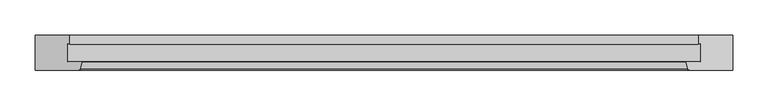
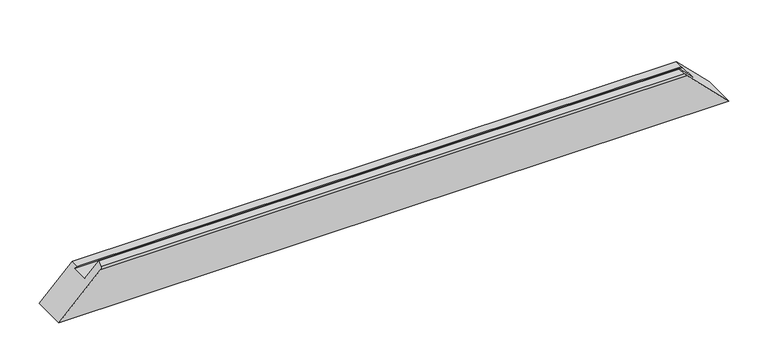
"""IFC4 building model written with IfcOpenShell, lengths in millimetres: proxy geometry, Weiku - Montante - Caixilho 02.2.01.005 : Weiku - Montante - Caixilho 02.2.01.005."""

from ifc_helpers import new_model, si_unit, frame, origin, place, context, project, spatial, ellipse_curve, source, transform, mapped, element, save
from ifc_brep_helpers import plane_surface, cylinder_surface, advanced_brep


def generic_models_3bb0d865(model_context):
    return source(origin(), model_context, "Body", "AdvancedBrep", [
        advanced_brep(
        [(-449.0, 12.5, 46.0), (-428.8909676, 12.5, 66.1090324), (428.8909676, 12.5, 66.1090324), (449.0, 12.5, 46.0), (-449.0, 37.8314286, 46.0), (449.0, 37.8314286, 46.0), (-446.0, 37.027581, 49.0), (446.0, 37.027581, 49.0), (-446.0, 50.0, 49.0), (446.0, 50.0, 49.0), (495.0, 50.0, 0.0), (-495.0, 50.0, 0.0), (495.0, 0.0, 0.0), (-495.0, 0.0, 0.0), (433.4997332, 0.0, 61.5002668), (-433.4997332, 0.0, 61.5002668), (-428.118227, 11.4929448, 66.881773), (-430.6019557, 2.2235429, 64.3980443), (430.6019557, 2.2235429, 64.3980443), (428.118227, 11.4929448, 66.881773)],
        [
            (0, 1),
            (1, 2),
            (2, 3),
            (3, 0),
            (4, 0),
            (3, 5),
            (5, 4),
            (6, 4),
            (5, 7),
            (7, 6),
            (8, 6),
            (7, 9),
            (9, 8),
            (10, 11),
            (11, 8),
            (9, 10),
            (10, 12),
            (12, 13),
            (13, 11),
            (12, 14),
            (14, 15),
            (15, 13),
            (16, 17),
            (17, 18),
            (18, 19),
            (19, 16),
            (15, 17, ellipse_curve(frame((-433.4997332, 3.0, 61.5002668), z_axis=(-0.7071067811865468, 0.0, 0.7071067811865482), x_axis=(-0.7071067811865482, 0.0, -0.7071067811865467)), 4.2426407, 3.0)),
            (16, 1, ellipse_curve(frame((-428.8909676, 11.7, 66.1090324), z_axis=(-0.7071067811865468, 0.0, 0.7071067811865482), x_axis=(-0.7071067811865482, 0.0, -0.7071067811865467)), 1.1313708, 0.8)),
            (2, 19, ellipse_curve(frame((428.8909676, 11.7, 66.1090324), z_axis=(0.707106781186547, 0.0, 0.7071067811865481), x_axis=(-0.7071067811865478, 0.0, 0.707106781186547)), 1.1313708, 0.8)),
            (18, 14, ellipse_curve(frame((433.4997332, 3.0, 61.5002668), z_axis=(0.707106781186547, 0.0, 0.7071067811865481), x_axis=(-0.7071067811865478, 0.0, 0.707106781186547)), 4.2426407, 3.0)),
        ],
        [
            plane_surface(frame((-495.0, 12.5, 66.1090324), z_axis=(0.0, 1.0, 0.0), x_axis=(1.0, 0.0, 0.0))),
            plane_surface(frame((-495.0, 12.5, 46.0), z_axis=(0.0, 0.0, 1.0), x_axis=(1.0, 0.0, 0.0))),
            plane_surface(frame((-495.0, 37.8314286, 46.0), z_axis=(0.0, -0.9659258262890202, -0.2588190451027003), x_axis=(1.0, 0.0, 0.0))),
            plane_surface(frame((-495.0, 37.027581, 49.0), z_axis=(0.0, 0.0, 1.0), x_axis=(1.0, 0.0, 0.0))),
            plane_surface(frame((-495.0, 50.0, 49.0), z_axis=(0.0, 1.0, 0.0), x_axis=(1.0, 0.0, 0.0))),
            plane_surface(frame((-495.0, 50.0, 0.0), z_axis=(0.0, 0.0, -1.0), x_axis=(1.0, 0.0, 0.0))),
            plane_surface(frame((-495.0, 0.0, 0.0), z_axis=(0.0, -1.0, 0.0), x_axis=(1.0, 0.0, 0.0))),
            plane_surface(frame((-495.0, 2.2235429, 64.3980443), z_axis=(0.0, -0.2588190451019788, 0.9659258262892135), x_axis=(1.0, 0.0, 0.0))),
            plane_surface(frame((-565.0, -15.0, -70.0), z_axis=(-0.7071067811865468, 0.0, 0.7071067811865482), x_axis=(0.0, 1.0, 0.0))),
            plane_surface(frame((425.0, -15.0, 70.0), z_axis=(0.707106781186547, 0.0, 0.7071067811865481), x_axis=(0.0, 1.0, 0.0))),
            cylinder_surface(frame((-495.0, 11.7, 66.1090324), z_axis=(-1.0, 0.0, 0.0), x_axis=(0.0, 1.0, 0.0)), 0.8),
            cylinder_surface(frame((-495.0, 3.0, 61.5002668), z_axis=(-1.0, 0.0, 0.0), x_axis=(0.0, 1.0, 0.0)), 3.0),
        ],
        [
            (0, [[1, 2, 3, 4]]),
            (1, [[5, -4, 6, 7]]),
            (2, [[8, -7, 9, 10]]),
            (3, [[11, -10, 12, 13]]),
            (4, [[14, 15, -13, 16]]),
            (5, [[-14, 17, 18, 19]]),
            (6, [[-18, 20, 21, 22]]),
            (7, [[23, 24, 25, 26]]),
            (8, [[-1, -5, -8, -11, -15, -19, -22, 27, -23, 28]]),
            (9, [[-3, 29, -25, 30, -20, -17, -16, -12, -9, -6]]),
            (10, [[-28, -26, -29, -2]]),
            (11, [[-27, -21, -30, -24]]),
        ],
    ),
    ])


if __name__ == "__main__":
    model = new_model("IFC4")
    model_context = context("Model", 3, world=origin())
    ifc_project = project(units=[si_unit("LENGTHUNIT", "METRE", prefix="MILLI")], contexts=[model_context])
    site = spatial("IfcSite", under=ifc_project)
    building = spatial("IfcBuilding", under=site)
    placement = place(None, origin())
    generic_models_shape = generic_models_3bb0d865(model_context)
    element("IfcBuildingElementProxy", 1, Name="Weiku - Montante - Caixilho 02.2.01.005 : Weiku - Montante - Caixilho 02.2.01.005", ObjectType="Weiku - Montante - Caixilho 02.2.01.005 : Weiku - Montante - Caixilho 02.2.01.005", at=placement, inside=building, context=model_context, shape_type="MappedRepresentation", body=[
        mapped(generic_models_shape, transform((0.0, 0.0, 0.0), x_axis=(1.0, 0.0, 0.0), y_axis=(0.0, 1.0, 0.0), z_axis=(0.0, 0.0, 1.0))),
    ])
    save(model, "model.ifc")
